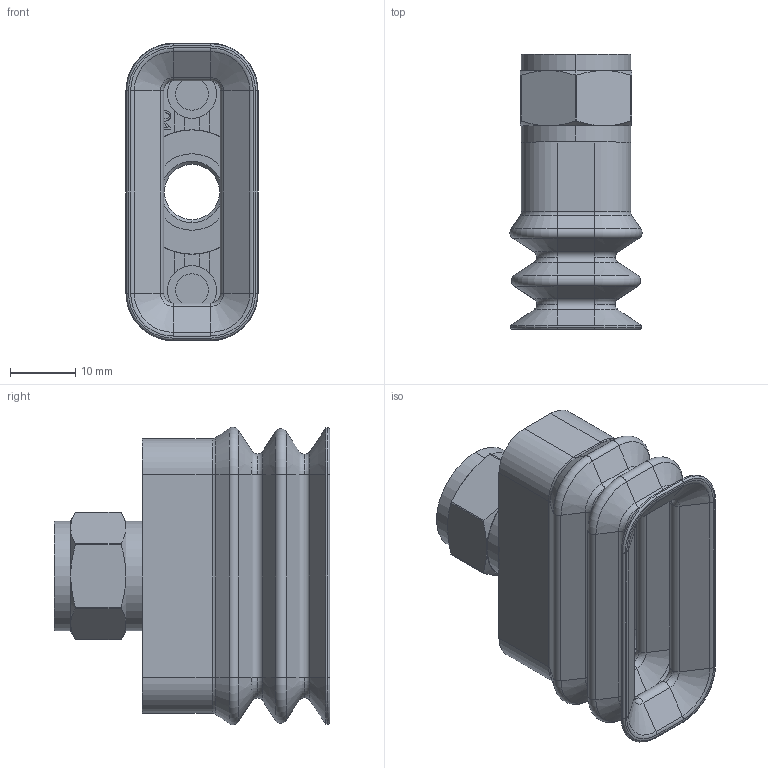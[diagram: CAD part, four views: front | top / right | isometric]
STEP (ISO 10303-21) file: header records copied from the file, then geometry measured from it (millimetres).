
FILE_DESCRIPTION (( 'STEP AP214' ), '1' );
FILE_NAME ('25RB.20X45.05-G14F.STEP', '2026-02-12T12:18:56', ( '' ), ( '' ), 'SwSTEP 2.0', 'SolidWorks 2025', '' );
FILE_SCHEMA (( 'AUTOMOTIVE_DESIGN' ));
Length unit declared in the file: inch
Products named in the file (4): OV2B2045-02-G2F (1).STEP; OV2045-02-25-G2F.STEP; FOV-G2F.STEP; 25RB.20X45.05-G14F
Assembly tree (3 placements, depth 3):
  25RB.20X45.05-G14F
    OV2B2045-02-G2F (1).STEP
      FOV-G2F.STEP
      OV2045-02-25-G2F.STEP
Bounding box: 20.19 x 42.1 x 45.49 mm (x, y, z)
Volume: 10914 mm3; surface area: 12770.3 mm2
Topology: 3 solids, 3 shells, 353 faces, 829 edges, 489 vertices
Faces by surface type: plane 102, cylinder 99, torus 66, cone 62, bspline 24
Entity records: 10574 total; most frequent: CARTESIAN_POINT 2377, DIRECTION 1765, ORIENTED_EDGE 1658, EDGE_CURVE 829, AXIS2_PLACEMENT_3D 713, VERTEX_POINT 489, CIRCLE 377, EDGE_LOOP 374
